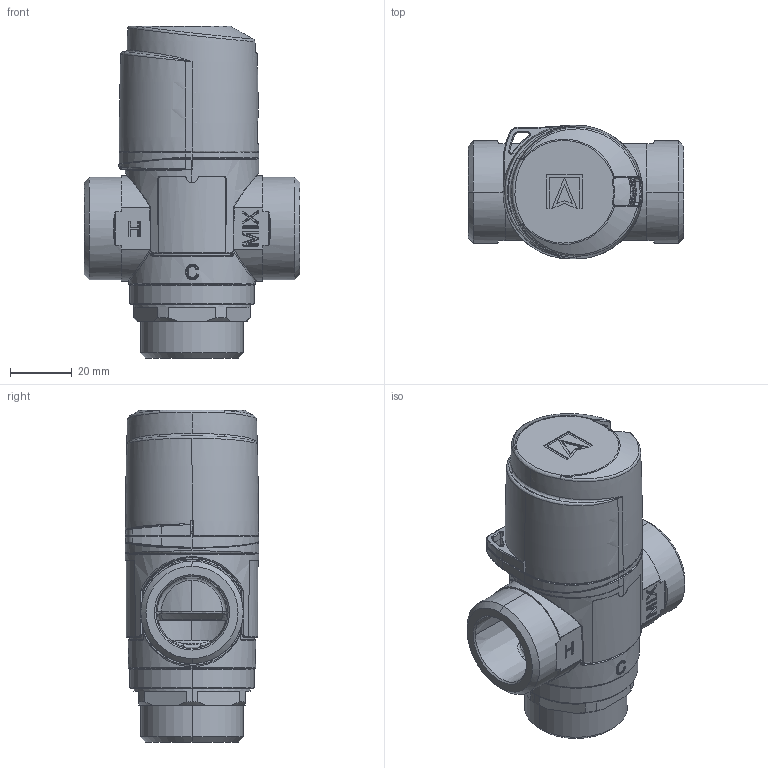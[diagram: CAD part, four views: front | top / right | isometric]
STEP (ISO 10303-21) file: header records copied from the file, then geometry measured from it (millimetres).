
FILE_DESCRIPTION (( 'STEP AP214' ), '1' );
FILE_NAME ('ATM363.STEP', '2022-02-08T14:21:02', ( '' ), ( '' ), 'SwSTEP 2.0', 'SolidWorks 2021', '' );
FILE_SCHEMA (( 'AUTOMOTIVE_DESIGN' ));
Length unit declared in the file: millimetre
Products named in the file (7): 41181; ATM363; 67082; 21780; 67079; 67081; 67080
Assembly tree (6 placements, depth 2):
  ATM363
    41181
    67082
    67079
    21780
    67081
    67080
Bounding box: 70 x 43.4 x 107.75 mm (x, y, z)
Volume: 61403.1 mm3; surface area: 60278.2 mm2
Topology: 5 solids, 458 shells, 2523 faces, 7404 edges, 5146 vertices
Faces by surface type: bspline 1060, cylinder 824, plane 480, cone 149, torus 10
Entity records: 135582 total; most frequent: CARTESIAN_POINT 60654, ORIENTED_EDGE 12154, DIRECTION 10173, EDGE_CURVE 7186, VERTEX_POINT 5146, AXIS2_PLACEMENT_3D 3975, EDGE_LOOP 2581, FACE_OUTER_BOUND 2523
